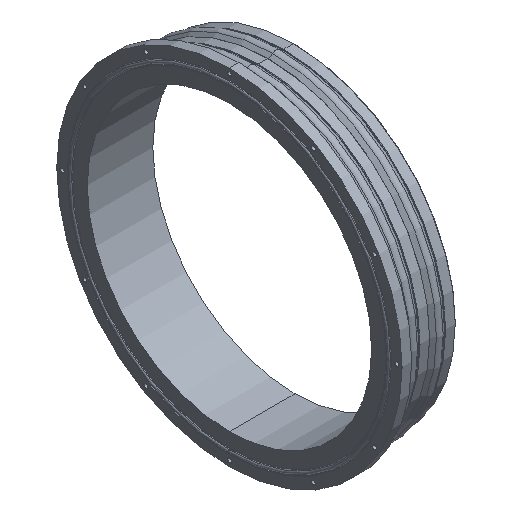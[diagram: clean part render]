
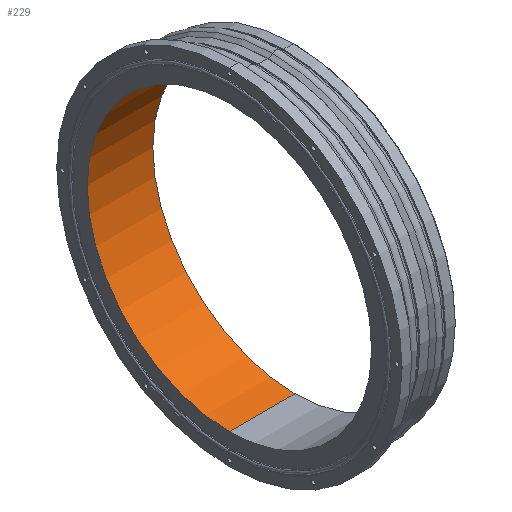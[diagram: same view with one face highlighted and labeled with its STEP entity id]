
A CAD part, isometric view. The second image highlights one B-rep face of the part: STEP entity #229.
In plain terms, the highlighted cylindrical face has radius 88.9 mm (diameter 177.8 mm), a partial arc.
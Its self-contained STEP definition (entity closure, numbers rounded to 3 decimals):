
#95 = CARTESIAN_POINT ( 'NONE',  ( 0., 0., 0. ) ) ;
#136 = CARTESIAN_POINT ( 'NONE',  ( 41., 0., -88.9 ) ) ;
#142 = FACE_OUTER_BOUND ( 'NONE', #1129, .T. ) ;
#229 = ADVANCED_FACE ( 'NONE', ( #142 ), #2022, .F. ) ;
#471 = VERTEX_POINT ( 'NONE', #2057 ) ;
#549 = EDGE_CURVE ( 'NONE', #471, #2570, #1009, .T. ) ;
#572 = CARTESIAN_POINT ( 'NONE',  ( 41., 0., 0. ) ) ;
#651 = DIRECTION ( 'NONE',  ( 1., 0., 0. ) ) ;
#656 = ORIENTED_EDGE ( 'NONE', *, *, #1802, .F. ) ;
#690 = DIRECTION ( 'NONE',  ( 0., 0., -1. ) ) ;
#826 = DIRECTION ( 'NONE',  ( 0., 0., -1. ) ) ;
#869 = CARTESIAN_POINT ( 'NONE',  ( 0., 0., 88.9 ) ) ;
#976 = AXIS2_PLACEMENT_3D ( 'NONE', #3319, #2486, #826 ) ;
#1009 = LINE ( 'NONE', #3431, #3504 ) ;
#1048 = AXIS2_PLACEMENT_3D ( 'NONE', #572, #1756, #1147 ) ;
#1129 = EDGE_LOOP ( 'NONE', ( #1363, #656, #1646, #3344 ) ) ;
#1147 = DIRECTION ( 'NONE',  ( 0., 0., -1. ) ) ;
#1173 = LINE ( 'NONE', #869, #2599 ) ;
#1363 = ORIENTED_EDGE ( 'NONE', *, *, #1498, .F. ) ;
#1442 = DIRECTION ( 'NONE',  ( 1., 0., 0. ) ) ;
#1498 = EDGE_CURVE ( 'NONE', #2679, #3390, #1173, .T. ) ;
#1601 = CIRCLE ( 'NONE', #1048, 88.9 ) ;
#1646 = ORIENTED_EDGE ( 'NONE', *, *, #549, .T. ) ;
#1756 = DIRECTION ( 'NONE',  ( 1., 0., 0. ) ) ;
#1795 = CARTESIAN_POINT ( 'NONE',  ( 41., 0., 88.9 ) ) ;
#1802 = EDGE_CURVE ( 'NONE', #471, #2679, #2676, .T. ) ;
#1803 = DIRECTION ( 'NONE',  ( 1., 0., 0. ) ) ;
#1910 = CARTESIAN_POINT ( 'NONE',  ( 0., 0., 88.9 ) ) ;
#2022 = CYLINDRICAL_SURFACE ( 'NONE', #3486, 88.9 ) ;
#2057 = CARTESIAN_POINT ( 'NONE',  ( 0., 0., -88.9 ) ) ;
#2486 = DIRECTION ( 'NONE',  ( 1., 0., 0. ) ) ;
#2570 = VERTEX_POINT ( 'NONE', #136 ) ;
#2599 = VECTOR ( 'NONE', #1442, 1000. ) ;
#2676 = CIRCLE ( 'NONE', #976, 88.9 ) ;
#2679 = VERTEX_POINT ( 'NONE', #1910 ) ;
#2949 = EDGE_CURVE ( 'NONE', #2570, #3390, #1601, .T. ) ;
#3319 = CARTESIAN_POINT ( 'NONE',  ( 0., 0., 0. ) ) ;
#3344 = ORIENTED_EDGE ( 'NONE', *, *, #2949, .T. ) ;
#3390 = VERTEX_POINT ( 'NONE', #1795 ) ;
#3431 = CARTESIAN_POINT ( 'NONE',  ( 0., 0., -88.9 ) ) ;
#3486 = AXIS2_PLACEMENT_3D ( 'NONE', #95, #651, #690 ) ;
#3504 = VECTOR ( 'NONE', #1803, 1000. ) ;
